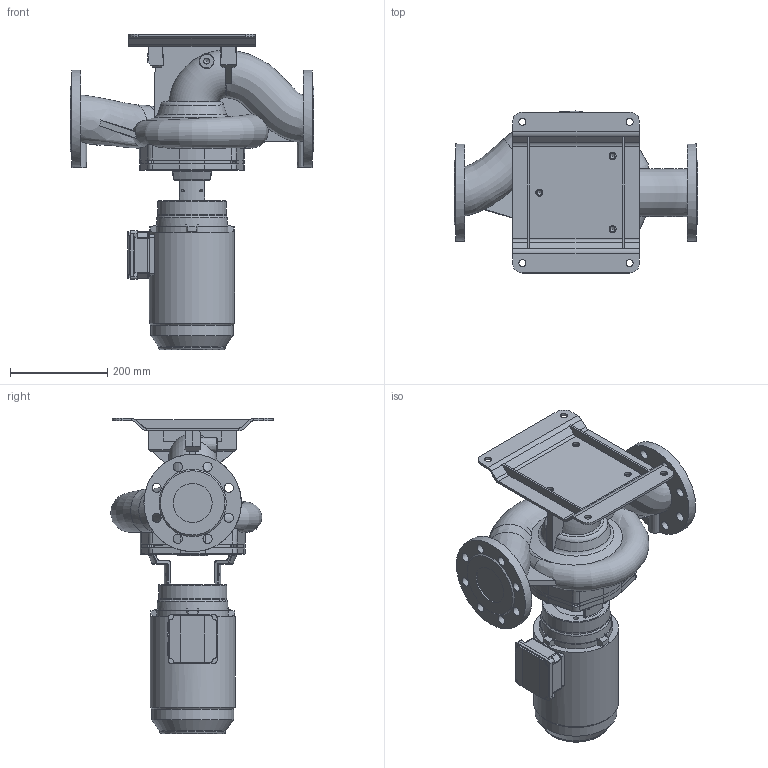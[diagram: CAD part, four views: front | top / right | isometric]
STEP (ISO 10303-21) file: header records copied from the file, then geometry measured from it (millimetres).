
FILE_DESCRIPTION (( 'STEP AP203' ), '1' );
FILE_NAME ('KI80-180_4_1,1kW.STEP', '2024-07-30T04:19:37', ( '' ), ( '' ), 'SwSTEP 2.0', 'SolidWorks 2023', '' );
FILE_SCHEMA (( 'CONFIG_CONTROL_DESIGN' ));
Length unit declared in the file: millimetre
Products named in the file (11): 230034; 220543; 230417; 230033; HMC3-90S-4P-B14_solid; 230416; 230488; 220542; KI80-180_4_1,1kW; 230489; 230031
Assembly tree (11 placements, depth 3):
  KI80-180_4_1,1kW
    HMC3-90S-4P-B14_solid
    230417
      230416
    230489
      230488
    220543
      220542
    230034
      230031
      230033  x2
Bounding box: 500 x 332.83 x 646.95 mm (x, y, z)
Volume: 19113919.5 mm3; surface area: 1163285 mm2
Topology: 7 solids, 7 shells, 850 faces, 2207 edges, 1364 vertices
Faces by surface type: plane 314, cylinder 278, bspline 93, torus 75, cone 68, sphere 22
Full cylindrical faces by diameter (mm): 5 x8, 6 x3, 6.8 x4, 7 x8, 10 x4, 10.2 x7, 11.8 x4, 14 x4, 14.5 x7, 19 x16, 80 x2, 95 x1, 136 x1, 140 x2, 150 x1, 168.6 x1, 174.6 x1, 189 x1, 194 x1, 200 x2
Entity records: 68193 total; most frequent: CARTESIAN_POINT 47843, ORIENTED_EDGE 3982, DIRECTION 3870, EDGE_CURVE 1991, AXIS2_PLACEMENT_3D 1505, VERTEX_POINT 1297, EDGE_LOOP 1064, FACE_OUTER_BOUND 925
